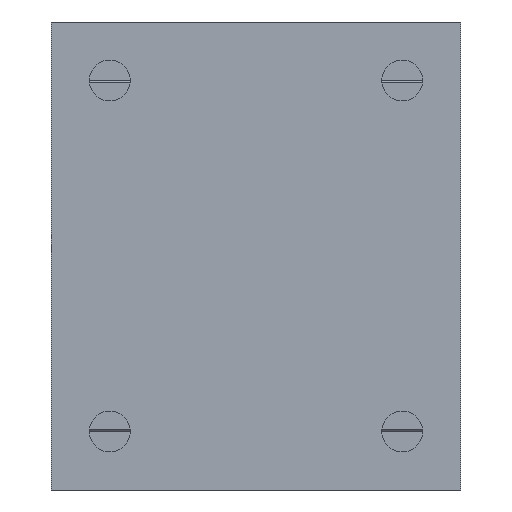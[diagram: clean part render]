
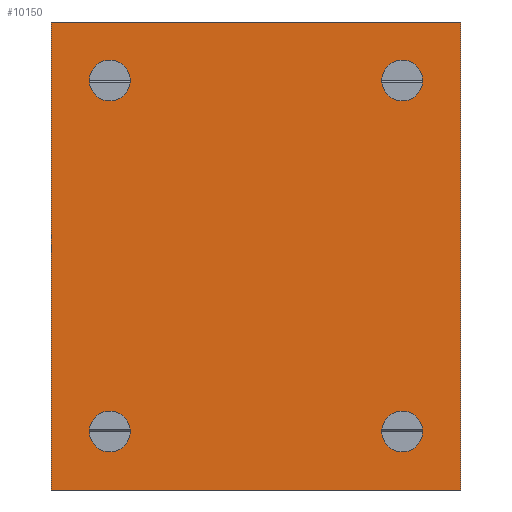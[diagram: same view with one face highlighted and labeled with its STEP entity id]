
A CAD part, front view. The second image highlights one B-rep face of the part: STEP entity #10150.
In plain terms, the highlighted planar face has unit normal (0, -1, 0).
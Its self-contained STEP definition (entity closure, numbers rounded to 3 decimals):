
#338=CIRCLE('',#10746,1.75);
#339=CIRCLE('',#10747,1.75);
#340=CIRCLE('',#10748,1.75);
#341=CIRCLE('',#10749,1.75);
#1030=ORIENTED_EDGE('',*,*,#4159,.T.);
#1031=ORIENTED_EDGE('',*,*,#4160,.F.);
#1032=ORIENTED_EDGE('',*,*,#4161,.F.);
#1033=ORIENTED_EDGE('',*,*,#4162,.F.);
#1034=ORIENTED_EDGE('',*,*,#4112,.T.);
#1035=ORIENTED_EDGE('',*,*,#4163,.F.);
#1036=ORIENTED_EDGE('',*,*,#4164,.F.);
#1037=ORIENTED_EDGE('',*,*,#4157,.T.);
#4112=EDGE_CURVE('',#5683,#5682,#6734,.T.);
#4157=EDGE_CURVE('',#5718,#5683,#6777,.T.);
#4159=EDGE_CURVE('',#5719,#5719,#338,.T.);
#4160=EDGE_CURVE('',#5720,#5720,#339,.T.);
#4161=EDGE_CURVE('',#5721,#5721,#340,.T.);
#4162=EDGE_CURVE('',#5722,#5722,#341,.T.);
#4163=EDGE_CURVE('',#5723,#5682,#6779,.T.);
#4164=EDGE_CURVE('',#5718,#5723,#6780,.T.);
#5682=VERTEX_POINT('',#15288);
#5683=VERTEX_POINT('',#15290);
#5718=VERTEX_POINT('',#15377);
#5719=VERTEX_POINT('',#15381);
#5720=VERTEX_POINT('',#15383);
#5721=VERTEX_POINT('',#15385);
#5722=VERTEX_POINT('',#15387);
#5723=VERTEX_POINT('',#15389);
#6734=LINE('',#15289,#7696);
#6777=LINE('',#15376,#7739);
#6779=LINE('',#15388,#7741);
#6780=LINE('',#15390,#7742);
#7696=VECTOR('',#11947,1000.);
#7739=VECTOR('',#12008,1000.);
#7741=VECTOR('',#12020,1000.);
#7742=VECTOR('',#12021,1000.);
#8643=EDGE_LOOP('',(#1030));
#8644=EDGE_LOOP('',(#1031));
#8645=EDGE_LOOP('',(#1032));
#8646=EDGE_LOOP('',(#1033));
#8647=EDGE_LOOP('',(#1034,#1035,#1036,#1037));
#9267=FACE_BOUND('',#8643,.T.);
#9268=FACE_BOUND('',#8644,.T.);
#9269=FACE_BOUND('',#8645,.T.);
#9270=FACE_BOUND('',#8646,.T.);
#9271=FACE_BOUND('',#8647,.T.);
#9889=PLANE('',#10745);
#10150=ADVANCED_FACE('',(#9267,#9268,#9269,#9270,#9271),#9889,.F.);
#10745=AXIS2_PLACEMENT_3D('',#15379,#12010,#12011);
#10746=AXIS2_PLACEMENT_3D('',#15380,#12012,#12013);
#10747=AXIS2_PLACEMENT_3D('',#15382,#12014,#12015);
#10748=AXIS2_PLACEMENT_3D('',#15384,#12016,#12017);
#10749=AXIS2_PLACEMENT_3D('',#15386,#12018,#12019);
#11947=DIRECTION('',(0.,0.,-1.));
#12008=DIRECTION('',(-1.,0.,0.));
#12010=DIRECTION('',(0.,1.,0.));
#12011=DIRECTION('',(0.,0.,1.));
#12012=DIRECTION('',(0.,1.,0.));
#12013=DIRECTION('',(0.,0.,1.));
#12014=DIRECTION('',(0.,-1.,0.));
#12015=DIRECTION('',(0.,0.,-1.));
#12016=DIRECTION('',(0.,-1.,0.));
#12017=DIRECTION('',(0.,0.,-1.));
#12018=DIRECTION('',(0.,-1.,0.));
#12019=DIRECTION('',(0.,0.,-1.));
#12020=DIRECTION('',(-1.,0.,0.));
#12021=DIRECTION('',(0.,0.,-1.));
#15288=CARTESIAN_POINT('',(0.,0.,-20.));
#15289=CARTESIAN_POINT('',(0.,0.,20.));
#15290=CARTESIAN_POINT('',(0.,0.,20.));
#15376=CARTESIAN_POINT('',(35.,0.,20.));
#15377=CARTESIAN_POINT('',(35.,0.,20.));
#15379=CARTESIAN_POINT('',(35.,0.,20.));
#15380=CARTESIAN_POINT('',(30.,0.,15.));
#15381=CARTESIAN_POINT('',(30.,0.,16.75));
#15382=CARTESIAN_POINT('',(30.,0.,-15.));
#15383=CARTESIAN_POINT('',(30.,0.,-16.75));
#15384=CARTESIAN_POINT('',(5.,0.,-15.));
#15385=CARTESIAN_POINT('',(5.,0.,-16.75));
#15386=CARTESIAN_POINT('',(5.,0.,15.));
#15387=CARTESIAN_POINT('',(5.,0.,13.25));
#15388=CARTESIAN_POINT('',(35.,0.,-20.));
#15389=CARTESIAN_POINT('',(35.,0.,-20.));
#15390=CARTESIAN_POINT('',(35.,0.,20.));
